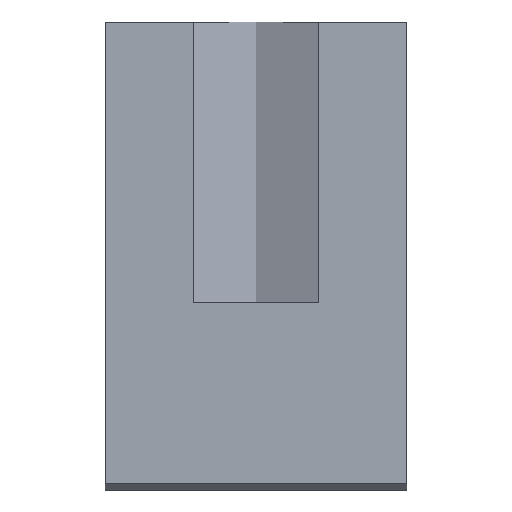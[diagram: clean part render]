
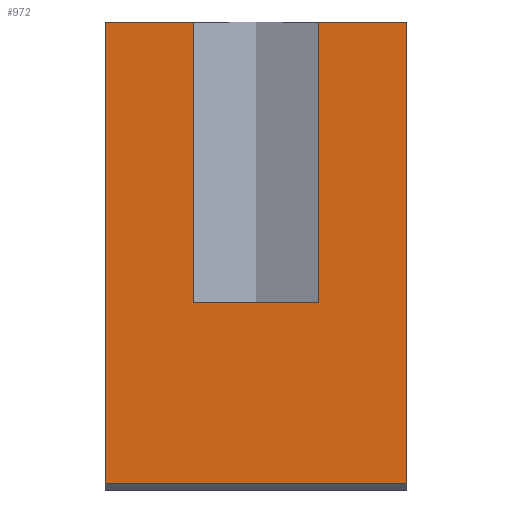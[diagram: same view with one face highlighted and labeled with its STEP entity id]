
A CAD part, front view. The second image highlights one B-rep face of the part: STEP entity #972.
In plain terms, the highlighted planar face has unit normal (0, -1, 0).
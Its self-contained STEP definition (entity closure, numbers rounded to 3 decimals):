
#21 = EDGE_CURVE('',#22,#24,#26,.T.);
#22 = VERTEX_POINT('',#23);
#23 = CARTESIAN_POINT('',(-29.,-38.,-227.84));
#24 = VERTEX_POINT('',#25);
#25 = CARTESIAN_POINT('',(29.,-38.,-227.84));
#26 = SURFACE_CURVE('',#27,(#31,#43),.PCURVE_S1.);
#27 = LINE('',#28,#29);
#28 = CARTESIAN_POINT('',(-29.,-38.,-227.84));
#29 = VECTOR('',#30,1.);
#30 = DIRECTION('',(1.,0.,0.));
#31 = PCURVE('',#32,#37);
#32 = PLANE('',#33);
#33 = AXIS2_PLACEMENT_3D('',#34,#35,#36);
#34 = CARTESIAN_POINT('',(-29.,-38.,-227.84));
#35 = DIRECTION('',(-0.,0.707,0.707));
#36 = DIRECTION('',(0.,0.707,-0.707));
#37 = DEFINITIONAL_REPRESENTATION('',(#38),#42);
#38 = LINE('',#39,#40);
#39 = CARTESIAN_POINT('',(0.,0.));
#40 = VECTOR('',#41,1.);
#41 = DIRECTION('',(0.,-1.));
#42 = ( GEOMETRIC_REPRESENTATION_CONTEXT(2) 
PARAMETRIC_REPRESENTATION_CONTEXT() REPRESENTATION_CONTEXT('2D SPACE',''
  ) );
#43 = PCURVE('',#44,#49);
#44 = PLANE('',#45);
#45 = AXIS2_PLACEMENT_3D('',#46,#47,#48);
#46 = CARTESIAN_POINT('',(-29.,-38.,-139.04));
#47 = DIRECTION('',(-0.,1.,0.));
#48 = DIRECTION('',(0.,0.,-1.));
#49 = DEFINITIONAL_REPRESENTATION('',(#50),#54);
#50 = LINE('',#51,#52);
#51 = CARTESIAN_POINT('',(88.8,0.));
#52 = VECTOR('',#53,1.);
#53 = DIRECTION('',(0.,-1.));
#54 = ( GEOMETRIC_REPRESENTATION_CONTEXT(2) 
PARAMETRIC_REPRESENTATION_CONTEXT() REPRESENTATION_CONTEXT('2D SPACE',''
  ) );
#72 = PLANE('',#73);
#73 = AXIS2_PLACEMENT_3D('',#74,#75,#76);
#74 = CARTESIAN_POINT('',(29.,-37.245,-183.865));
#75 = DIRECTION('',(1.,0.,0.));
#76 = DIRECTION('',(-0.,0.,1.));
#126 = PLANE('',#127);
#127 = AXIS2_PLACEMENT_3D('',#128,#129,#130);
#128 = CARTESIAN_POINT('',(-29.,-37.245,-183.865));
#129 = DIRECTION('',(1.,0.,0.));
#130 = DIRECTION('',(-0.,0.,1.));
#194 = VERTEX_POINT('',#195);
#195 = CARTESIAN_POINT('',(29.,-38.,-139.04));
#209 = PLANE('',#210);
#210 = AXIS2_PLACEMENT_3D('',#211,#212,#213);
#211 = CARTESIAN_POINT('',(-29.,-36.5,-139.04));
#212 = DIRECTION('',(0.,0.,-1.));
#213 = DIRECTION('',(0.,-1.,0.));
#221 = EDGE_CURVE('',#194,#24,#222,.T.);
#222 = SURFACE_CURVE('',#223,(#227,#234),.PCURVE_S1.);
#223 = LINE('',#224,#225);
#224 = CARTESIAN_POINT('',(29.,-38.,-139.04));
#225 = VECTOR('',#226,1.);
#226 = DIRECTION('',(0.,0.,-1.));
#227 = PCURVE('',#72,#228);
#228 = DEFINITIONAL_REPRESENTATION('',(#229),#233);
#229 = LINE('',#230,#231);
#230 = CARTESIAN_POINT('',(44.825,0.755));
#231 = VECTOR('',#232,1.);
#232 = DIRECTION('',(-1.,0.));
#233 = ( GEOMETRIC_REPRESENTATION_CONTEXT(2) 
PARAMETRIC_REPRESENTATION_CONTEXT() REPRESENTATION_CONTEXT('2D SPACE',''
  ) );
#234 = PCURVE('',#44,#235);
#235 = DEFINITIONAL_REPRESENTATION('',(#236),#240);
#236 = LINE('',#237,#238);
#237 = CARTESIAN_POINT('',(0.,-58.));
#238 = VECTOR('',#239,1.);
#239 = DIRECTION('',(1.,0.));
#240 = ( GEOMETRIC_REPRESENTATION_CONTEXT(2) 
PARAMETRIC_REPRESENTATION_CONTEXT() REPRESENTATION_CONTEXT('2D SPACE',''
  ) );
#245 = EDGE_CURVE('',#194,#246,#248,.T.);
#246 = VERTEX_POINT('',#247);
#247 = CARTESIAN_POINT('',(12.,-38.,-139.04));
#248 = SURFACE_CURVE('',#249,(#253,#260),.PCURVE_S1.);
#249 = LINE('',#250,#251);
#250 = CARTESIAN_POINT('',(29.,-38.,-139.04));
#251 = VECTOR('',#252,1.);
#252 = DIRECTION('',(-1.,0.,0.));
#253 = PCURVE('',#209,#254);
#254 = DEFINITIONAL_REPRESENTATION('',(#255),#259);
#255 = LINE('',#256,#257);
#256 = CARTESIAN_POINT('',(1.5,-58.));
#257 = VECTOR('',#258,1.);
#258 = DIRECTION('',(0.,1.));
#259 = ( GEOMETRIC_REPRESENTATION_CONTEXT(2) 
PARAMETRIC_REPRESENTATION_CONTEXT() REPRESENTATION_CONTEXT('2D SPACE',''
  ) );
#260 = PCURVE('',#44,#261);
#261 = DEFINITIONAL_REPRESENTATION('',(#262),#266);
#262 = LINE('',#263,#264);
#263 = CARTESIAN_POINT('',(0.,-58.));
#264 = VECTOR('',#265,1.);
#265 = DIRECTION('',(0.,1.));
#266 = ( GEOMETRIC_REPRESENTATION_CONTEXT(2) 
PARAMETRIC_REPRESENTATION_CONTEXT() REPRESENTATION_CONTEXT('2D SPACE',''
  ) );
#284 = PLANE('',#285);
#285 = AXIS2_PLACEMENT_3D('',#286,#287,#288);
#286 = CARTESIAN_POINT('',(16.8,-40.,-193.04));
#287 = DIRECTION('',(-0.385,-0.923,0.));
#288 = DIRECTION('',(-0.923,0.385,0.));
#297 = VERTEX_POINT('',#298);
#298 = CARTESIAN_POINT('',(-12.,-38.,-139.04));
#312 = PLANE('',#313);
#313 = AXIS2_PLACEMENT_3D('',#314,#315,#316);
#314 = CARTESIAN_POINT('',(0.,-33.,-193.04));
#315 = DIRECTION('',(0.385,-0.923,0.));
#316 = DIRECTION('',(-0.923,-0.385,0.));
#324 = EDGE_CURVE('',#297,#325,#327,.T.);
#325 = VERTEX_POINT('',#326);
#326 = CARTESIAN_POINT('',(-29.,-38.,-139.04));
#327 = SURFACE_CURVE('',#328,(#332,#339),.PCURVE_S1.);
#328 = LINE('',#329,#330);
#329 = CARTESIAN_POINT('',(-12.,-38.,-139.04));
#330 = VECTOR('',#331,1.);
#331 = DIRECTION('',(-1.,0.,0.));
#332 = PCURVE('',#209,#333);
#333 = DEFINITIONAL_REPRESENTATION('',(#334),#338);
#334 = LINE('',#335,#336);
#335 = CARTESIAN_POINT('',(1.5,-17.));
#336 = VECTOR('',#337,1.);
#337 = DIRECTION('',(0.,1.));
#338 = ( GEOMETRIC_REPRESENTATION_CONTEXT(2) 
PARAMETRIC_REPRESENTATION_CONTEXT() REPRESENTATION_CONTEXT('2D SPACE',''
  ) );
#339 = PCURVE('',#44,#340);
#340 = DEFINITIONAL_REPRESENTATION('',(#341),#345);
#341 = LINE('',#342,#343);
#342 = CARTESIAN_POINT('',(0.,-17.));
#343 = VECTOR('',#344,1.);
#344 = DIRECTION('',(0.,1.));
#345 = ( GEOMETRIC_REPRESENTATION_CONTEXT(2) 
PARAMETRIC_REPRESENTATION_CONTEXT() REPRESENTATION_CONTEXT('2D SPACE',''
  ) );
#717 = EDGE_CURVE('',#718,#297,#720,.T.);
#718 = VERTEX_POINT('',#719);
#719 = CARTESIAN_POINT('',(-12.,-38.,-193.04));
#720 = SURFACE_CURVE('',#721,(#725,#732),.PCURVE_S1.);
#721 = LINE('',#722,#723);
#722 = CARTESIAN_POINT('',(-12.,-38.,-211.04));
#723 = VECTOR('',#724,1.);
#724 = DIRECTION('',(-0.,0.,1.));
#725 = PCURVE('',#312,#726);
#726 = DEFINITIONAL_REPRESENTATION('',(#727),#731);
#727 = LINE('',#728,#729);
#728 = CARTESIAN_POINT('',(13.,18.));
#729 = VECTOR('',#730,1.);
#730 = DIRECTION('',(0.,-1.));
#731 = ( GEOMETRIC_REPRESENTATION_CONTEXT(2) 
PARAMETRIC_REPRESENTATION_CONTEXT() REPRESENTATION_CONTEXT('2D SPACE',''
  ) );
#732 = PCURVE('',#44,#733);
#733 = DEFINITIONAL_REPRESENTATION('',(#734),#738);
#734 = LINE('',#735,#736);
#735 = CARTESIAN_POINT('',(72.,-17.));
#736 = VECTOR('',#737,1.);
#737 = DIRECTION('',(-1.,0.));
#738 = ( GEOMETRIC_REPRESENTATION_CONTEXT(2) 
PARAMETRIC_REPRESENTATION_CONTEXT() REPRESENTATION_CONTEXT('2D SPACE',''
  ) );
#754 = PLANE('',#755);
#755 = AXIS2_PLACEMENT_3D('',#756,#757,#758);
#756 = CARTESIAN_POINT('',(0.,-37.758,-193.04));
#757 = DIRECTION('',(0.,0.,1.));
#758 = DIRECTION('',(1.,0.,-0.));
#791 = EDGE_CURVE('',#718,#792,#794,.T.);
#792 = VERTEX_POINT('',#793);
#793 = CARTESIAN_POINT('',(12.,-38.,-193.04));
#794 = SURFACE_CURVE('',#795,(#799,#806),.PCURVE_S1.);
#795 = LINE('',#796,#797);
#796 = CARTESIAN_POINT('',(-14.5,-38.,-193.04));
#797 = VECTOR('',#798,1.);
#798 = DIRECTION('',(1.,0.,-0.));
#799 = PCURVE('',#754,#800);
#800 = DEFINITIONAL_REPRESENTATION('',(#801),#805);
#801 = LINE('',#802,#803);
#802 = CARTESIAN_POINT('',(-14.5,-0.243));
#803 = VECTOR('',#804,1.);
#804 = DIRECTION('',(1.,0.));
#805 = ( GEOMETRIC_REPRESENTATION_CONTEXT(2) 
PARAMETRIC_REPRESENTATION_CONTEXT() REPRESENTATION_CONTEXT('2D SPACE',''
  ) );
#806 = PCURVE('',#44,#807);
#807 = DEFINITIONAL_REPRESENTATION('',(#808),#812);
#808 = LINE('',#809,#810);
#809 = CARTESIAN_POINT('',(54.,-14.5));
#810 = VECTOR('',#811,1.);
#811 = DIRECTION('',(0.,-1.));
#812 = ( GEOMETRIC_REPRESENTATION_CONTEXT(2) 
PARAMETRIC_REPRESENTATION_CONTEXT() REPRESENTATION_CONTEXT('2D SPACE',''
  ) );
#839 = EDGE_CURVE('',#246,#792,#840,.T.);
#840 = SURFACE_CURVE('',#841,(#845,#852),.PCURVE_S1.);
#841 = LINE('',#842,#843);
#842 = CARTESIAN_POINT('',(12.,-38.,-211.04));
#843 = VECTOR('',#844,1.);
#844 = DIRECTION('',(-0.,0.,-1.));
#845 = PCURVE('',#284,#846);
#846 = DEFINITIONAL_REPRESENTATION('',(#847),#851);
#847 = LINE('',#848,#849);
#848 = CARTESIAN_POINT('',(5.2,18.));
#849 = VECTOR('',#850,1.);
#850 = DIRECTION('',(0.,1.));
#851 = ( GEOMETRIC_REPRESENTATION_CONTEXT(2) 
PARAMETRIC_REPRESENTATION_CONTEXT() REPRESENTATION_CONTEXT('2D SPACE',''
  ) );
#852 = PCURVE('',#44,#853);
#853 = DEFINITIONAL_REPRESENTATION('',(#854),#858);
#854 = LINE('',#855,#856);
#855 = CARTESIAN_POINT('',(72.,-41.));
#856 = VECTOR('',#857,1.);
#857 = DIRECTION('',(1.,0.));
#858 = ( GEOMETRIC_REPRESENTATION_CONTEXT(2) 
PARAMETRIC_REPRESENTATION_CONTEXT() REPRESENTATION_CONTEXT('2D SPACE',''
  ) );
#945 = EDGE_CURVE('',#325,#22,#946,.T.);
#946 = SURFACE_CURVE('',#947,(#951,#958),.PCURVE_S1.);
#947 = LINE('',#948,#949);
#948 = CARTESIAN_POINT('',(-29.,-38.,-139.04));
#949 = VECTOR('',#950,1.);
#950 = DIRECTION('',(0.,0.,-1.));
#951 = PCURVE('',#126,#952);
#952 = DEFINITIONAL_REPRESENTATION('',(#953),#957);
#953 = LINE('',#954,#955);
#954 = CARTESIAN_POINT('',(44.825,0.755));
#955 = VECTOR('',#956,1.);
#956 = DIRECTION('',(-1.,0.));
#957 = ( GEOMETRIC_REPRESENTATION_CONTEXT(2) 
PARAMETRIC_REPRESENTATION_CONTEXT() REPRESENTATION_CONTEXT('2D SPACE',''
  ) );
#958 = PCURVE('',#44,#959);
#959 = DEFINITIONAL_REPRESENTATION('',(#960),#964);
#960 = LINE('',#961,#962);
#961 = CARTESIAN_POINT('',(0.,0.));
#962 = VECTOR('',#963,1.);
#963 = DIRECTION('',(1.,0.));
#964 = ( GEOMETRIC_REPRESENTATION_CONTEXT(2) 
PARAMETRIC_REPRESENTATION_CONTEXT() REPRESENTATION_CONTEXT('2D SPACE',''
  ) );
#972 = ADVANCED_FACE('',(#973),#44,.F.);
#973 = FACE_BOUND('',#974,.F.);
#974 = EDGE_LOOP('',(#975,#976,#977,#978,#979,#980,#981,#982));
#975 = ORIENTED_EDGE('',*,*,#945,.F.);
#976 = ORIENTED_EDGE('',*,*,#324,.F.);
#977 = ORIENTED_EDGE('',*,*,#717,.F.);
#978 = ORIENTED_EDGE('',*,*,#791,.T.);
#979 = ORIENTED_EDGE('',*,*,#839,.F.);
#980 = ORIENTED_EDGE('',*,*,#245,.F.);
#981 = ORIENTED_EDGE('',*,*,#221,.T.);
#982 = ORIENTED_EDGE('',*,*,#21,.F.);
